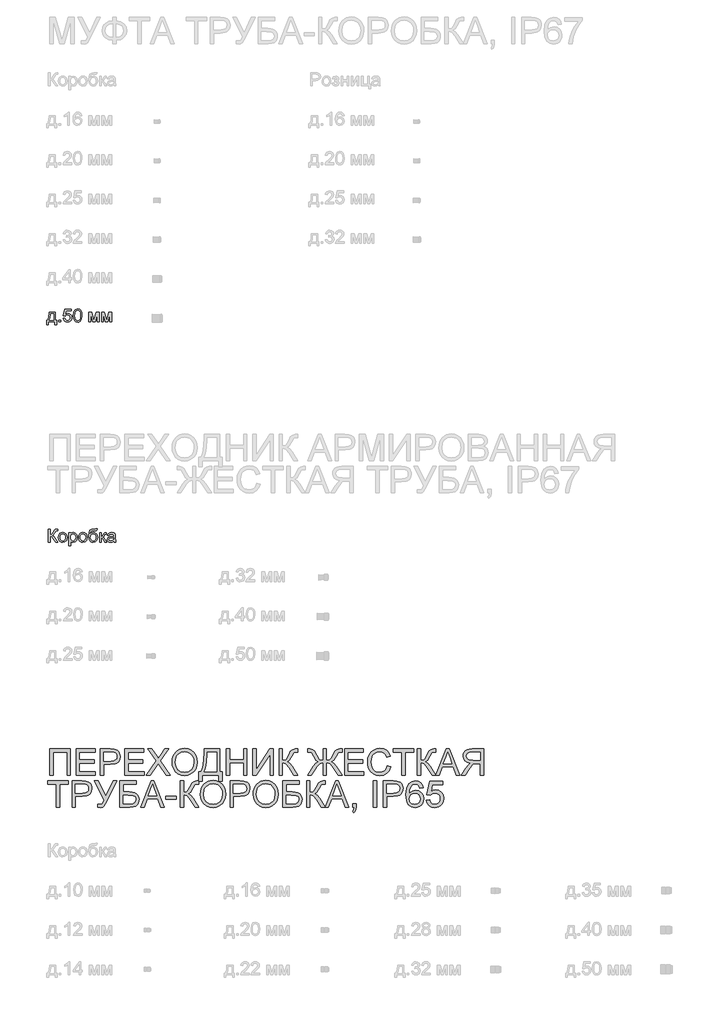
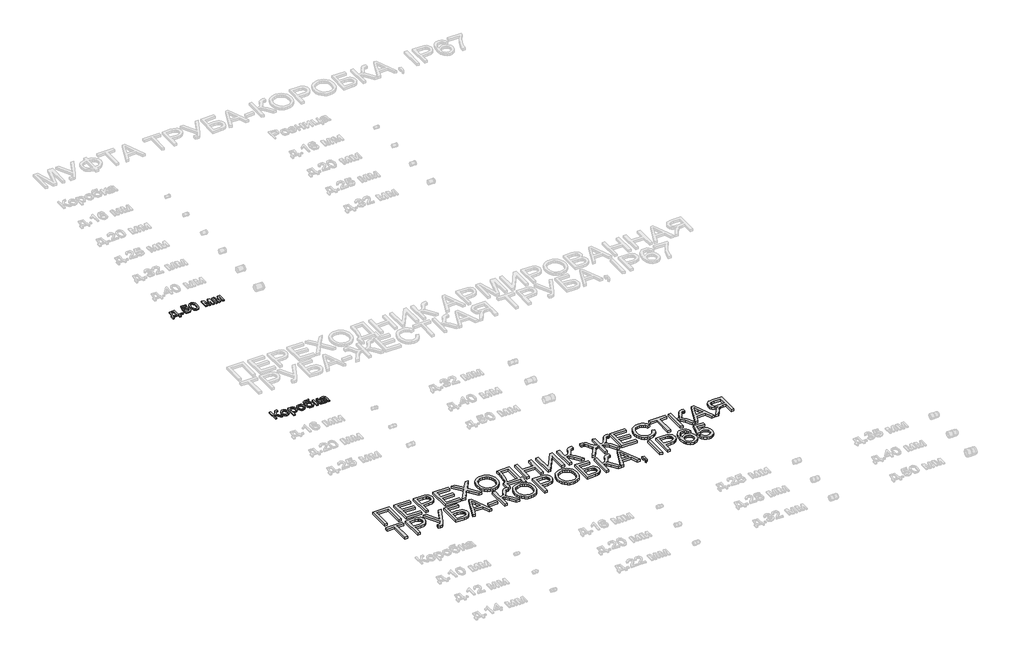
# One storey, part 58 of 98: 3 proxies.
"""IFC4 building model written with IfcOpenShell, lengths in millimetres."""

from ifc_helpers import new_model, si_unit, origin, origin_with_axes, place, context, project, spatial, polyline, outline, extrude, element, save

model = new_model("IFC4")

# Units and contexts
model_context = context("Model", 3, world=origin())
ifc_project = project(units=[si_unit("LENGTHUNIT", "METRE", prefix="MILLI")], contexts=[model_context])

# Site, building, storey
site = spatial("IfcSite", under=ifc_project)
building = spatial("IfcBuilding", under=site)
storey = spatial("IfcBuildingStorey", under=building, Name="Этаж 01", Elevation=0.0)

# Proxies
placement = place(None, origin())
element("IfcBuildingElementProxy", 1, Name="100", ObjectType="100", at=placement, inside=storey, context=model_context, shape_type="SweptSolid", body=[
    extrude(outline(polyline([(8356.3281893, -24085.7395637), (8403.4170847, -24085.7395637), (8403.4170847, -24146.9551277), (8412.8348638, -24146.9551277), (8412.8348638, -24179.9173545), (8400.277825, -24179.9173545), (8400.277825, -24159.5121665), (8348.4800401, -24159.5121665), (8348.4800401, -24179.9173545), (8335.9230013, -24179.9173545), (8335.9230013, -24146.9551277), (8343.7711505, -24146.9551277), (8353.4709725, -24123.0060098), (8356.3281893, -24085.7395637)]), holes=[polyline([(8367.3155982, -24098.2966025), (8364.3725423, -24126.905559), (8357.8978192, -24146.9551277), (8390.8600459, -24146.9551277), (8390.8600459, -24098.2966025), (8367.3155982, -24098.2966025)])]), origin_with_axes(), (0.0, 0.0, 1.0), 10.0),
    extrude(outline(polyline([(8430.1007921, -24159.5121665), (8430.1007921, -24146.9551277), (8442.6578308, -24146.9551277), (8442.6578308, -24159.5121665), (8430.1007921, -24159.5121665)])), origin_with_axes(), (0.0, 0.0, 1.0), 10.0),
    extrude(outline(polyline([(8463.0630188, -24132.8284591), (8475.6200576, -24131.2588292), (8481.9476279, -24144.1960127), (8495.0687524, -24148.5247575), (8504.0695986, -24147.019507), (8510.8141018, -24142.5037555), (8515.0263507, -24135.4986692), (8516.4304336, -24126.5254142), (8511.1697211, -24111.6139307), (8504.5631736, -24107.5120464), (8495.2649562, -24106.1447517), (8484.240759, -24108.3275182), (8477.1896875, -24113.9929009), (8464.6326487, -24112.4232711), (8475.6200576, -24060.6254862), (8524.2785828, -24060.6254862), (8524.2785828, -24073.1825249), (8485.7736007, -24073.1825249), (8480.4025236, -24100.847251), (8489.3727129, -24095.4025974), (8498.7720978, -24093.5877129), (8510.5044678, -24095.8379245), (8520.2441436, -24102.5885591), (8526.8016402, -24112.8769922), (8528.9874724, -24125.7405993), (8527.0193037, -24138.2976381), (8521.1147977, -24149.0397923), (8509.8085577, -24158.0712953), (8495.0197015, -24161.0817963), (8482.6864576, -24159.1473501), (8472.8609426, -24153.3440117), (8466.1256365, -24144.3462312), (8463.0630188, -24132.8284591)])), origin_with_axes(), (0.0, 0.0, 1.0), 10.0),
    extrude(outline(polyline([(8539.9748813, -24110.0933518), (8543.665964, -24081.1900897), (8554.6288474, -24064.5250353), (8572.9371081, -24059.0558563), (8587.6033369, -24062.2932179), (8597.7323545, -24071.6251578), (8603.6184665, -24086.4875904), (8605.8993348, -24110.0933518), (8602.2450404, -24138.8739865), (8591.3189451, -24155.5758291), (8583.0875855, -24159.7053045), (8572.9371081, -24161.0817963), (8559.88956, -24158.6905633), (8549.9812716, -24151.5168644), (8542.4764789, -24134.5268476), (8539.9748813, -24110.0933518)]), holes=[polyline([(8552.5319201, -24110.0688263), (8554.0034481, -24129.8210238), (8558.418032, -24141.2529568), (8564.990857, -24146.7068073), (8572.9371081, -24148.5247575), (8580.8833592, -24146.700676), (8587.4561841, -24141.2284313), (8591.8707681, -24129.7903669), (8593.3422961, -24110.0688263), (8591.919819, -24090.7611529), (8587.6523879, -24079.2403151), (8581.0918256, -24073.5197501), (8572.7899553, -24071.6128951), (8564.9295433, -24073.2928895), (8558.6142357, -24078.3328729), (8554.052499, -24090.5710806), (8552.5319201, -24110.0688263)])]), origin_with_axes(), (0.0, 0.0, 1.0), 10.0),
    extrude(outline(polyline([(8659.2667496, -24085.7395637), (8680.8736855, -24085.7395637), (8697.5264771, -24144.7968867), (8715.4791185, -24085.7395637), (8736.1786121, -24085.7395637), (8736.1786121, -24159.5121665), (8723.6215733, -24159.5121665), (8723.6215733, -24100.111487), (8705.5708301, -24159.5121665), (8689.0897167, -24159.5121665), (8671.8237884, -24097.2665329), (8671.8237884, -24159.5121665), (8659.2667496, -24159.5121665), (8659.2667496, -24085.7395637)])), origin_with_axes(), (0.0, 0.0, 1.0), 10.0),
    extrude(outline(polyline([(8755.0141702, -24085.7395637), (8776.6211061, -24085.7395637), (8793.2738977, -24144.7968867), (8811.2265391, -24085.7395637), (8831.9260327, -24085.7395637), (8831.9260327, -24159.5121665), (8819.3689939, -24159.5121665), (8819.3689939, -24100.111487), (8801.3182507, -24159.5121665), (8784.8371373, -24159.5121665), (8767.571209, -24097.2665329), (8767.571209, -24159.5121665), (8755.0141702, -24159.5121665), (8755.0141702, -24085.7395637)])), origin_with_axes(), (0.0, 0.0, 1.0), 10.0),
])
element("IfcBuildingElementProxy", 2, Name="100", ObjectType="100", at=placement, inside=storey, context=model_context, shape_type="SweptSolid", body=[
    extrude(outline(polyline([(8349.7389883, -25738.6795006), (8362.2960271, -25738.6795006), (8362.2960271, -25782.6291363), (8376.3368566, -25779.3059356), (8386.1347804, -25762.4937284), (8393.0632246, -25748.4528989), (8400.9113739, -25741.4999292), (8412.1317747, -25738.6795006), (8420.3723314, -25738.8266534), (8420.3723314, -25751.3836922), (8417.6009537, -25751.3101158), (8414.829576, -25751.2365394), (8405.0193895, -25754.2531717), (8397.5636477, -25767.1780925), (8388.6731662, -25782.9234419), (8380.0034138, -25788.1228407), (8389.6971044, -25793.8004862), (8399.2559049, -25805.6340237), (8420.3723314, -25839.1358107), (8405.8042044, -25839.1358107), (8387.9496649, -25810.8334226), (8375.3803634, -25796.0568291), (8362.2960271, -25792.0469154), (8362.2960271, -25839.1358107), (8349.7389883, -25839.1358107), (8349.7389883, -25738.6795006)])), origin_with_axes(), (0.0, 0.0, 1.0), 10.0),
    extrude(outline(polyline([(8426.6508508, -25802.2495094), (8429.3670462, -25784.4624149), (8437.5156324, -25771.9605584), (8447.5833363, -25765.8353232), (8459.637603, -25763.7935781), (8472.8292382, -25766.2798473), (8483.3659917, -25773.7386547), (8490.2729762, -25785.5813893), (8492.5753043, -25801.2194398), (8488.5040769, -25823.5621396), (8476.6460139, -25836.2050175), (8459.637603, -25840.7054406), (8446.2865523, -25838.2283685), (8435.7620615, -25830.7971522), (8428.9286535, -25818.7060973), (8426.6508508, -25802.2495094)]), holes=[polyline([(8439.2078896, -25802.2249839), (8440.6610235, -25813.5894719), (8445.0204251, -25821.6859414), (8451.5809873, -25826.5327867), (8459.637603, -25828.1484018), (8467.6574305, -25826.5235897), (8474.20573, -25821.6491532), (8478.5651317, -25813.4453847), (8480.0182656, -25801.8325764), (8478.5559346, -25790.7991823), (8474.1689418, -25782.8130773), (8467.6114453, -25777.966232), (8459.637603, -25776.3506169), (8451.5809873, -25777.9601006), (8445.0204251, -25782.7885518), (8440.6610235, -25790.8666273), (8439.2078896, -25802.2249839)])]), origin_with_axes(), (0.0, 0.0, 1.0), 10.0),
    extrude(outline(polyline([(8506.701973, -25867.389148), (8506.701973, -25765.363208), (8519.2590117, -25765.363208), (8519.2590117, -25777.6749921), (8527.9410268, -25767.2639316), (8539.6641997, -25763.7935781), (8555.5812274, -25768.6496205), (8565.9800251, -25782.3348307), (8569.4871668, -25801.6854236), (8565.526304, -25822.029298), (8554.0238603, -25835.8861864), (8538.1436208, -25840.7054406), (8527.2175256, -25837.4803418), (8519.2590117, -25829.3256242), (8519.2590117, -25867.389148), (8506.701973, -25867.389148)]), holes=[polyline([(8519.2590117, -25802.8381205), (8520.6171094, -25814.0953096), (8524.6914025, -25821.9679843), (8530.7032075, -25826.6032974), (8537.8738407, -25828.1484018), (8545.1609699, -25826.5481151), (8551.326059, -25821.7472551), (8555.5291108, -25813.5864062), (8556.930128, -25801.9061528), (8555.5628333, -25790.7102774), (8551.460949, -25782.7272381), (8545.4583411, -25777.9447722), (8538.3888755, -25776.3506169), (8531.2918186, -25778.0459398), (8525.0592845, -25783.1319083), (8520.7090799, -25791.4491071), (8519.2590117, -25802.8381205)])]), origin_with_axes(), (0.0, 0.0, 1.0), 10.0),
    extrude(outline(polyline([(8580.4745757, -25802.2495094), (8583.1907711, -25784.4624149), (8591.3393573, -25771.9605584), (8601.4070612, -25765.8353232), (8613.461328, -25763.7935781), (8626.6529632, -25766.2798473), (8637.1897166, -25773.7386547), (8644.0967011, -25785.5813893), (8646.3990293, -25801.2194398), (8642.3278018, -25823.5621396), (8630.4697389, -25836.2050175), (8613.461328, -25840.7054406), (8600.1102772, -25838.2283685), (8589.5857865, -25830.7971522), (8582.7523784, -25818.7060973), (8580.4745757, -25802.2495094)]), holes=[polyline([(8593.0316145, -25802.2249839), (8594.4847484, -25813.5894719), (8598.84415, -25821.6859414), (8605.4047123, -25826.5327867), (8613.461328, -25828.1484018), (8621.4811554, -25826.5235897), (8628.029455, -25821.6491532), (8632.3888566, -25813.4453847), (8633.8419905, -25801.8325764), (8632.3796596, -25790.7991823), (8627.9926668, -25782.8130773), (8621.4351702, -25777.966232), (8613.461328, -25776.3506169), (8605.4047123, -25777.9601006), (8598.84415, -25782.7885518), (8594.4847484, -25790.8666273), (8593.0316145, -25802.2249839)])]), origin_with_axes(), (0.0, 0.0, 1.0), 10.0),
    extrude(outline(polyline([(8712.3234828, -25737.1098707), (8723.3108917, -25737.1098707), (8720.0735302, -25746.9077945), (8713.6723834, -25750.4517244), (8698.294916, -25751.2365394), (8677.5831597, -25754.1305444), (8669.6369086, -25763.4011707), (8666.9513701, -25779.8087076), (8677.8284144, -25767.7912291), (8691.8447184, -25763.7935781), (8704.9106606, -25766.3350296), (8715.5117934, -25773.9593839), (8722.5383395, -25785.9186145), (8724.8805216, -25801.4646944), (8720.2329457, -25823.0716303), (8709.2087486, -25836.1069156), (8691.8447184, -25840.7054406), (8680.5108873, -25839.2247156), (8672.0158789, -25834.7825405), (8661.16336, -25819.6258023), (8657.3864382, -25787.4606531), (8659.7684741, -25763.3674481), (8666.9145819, -25748.6736281), (8679.0025711, -25741.1780325), (8696.2102514, -25738.6795006), (8710.1897672, -25738.3974577), (8712.3234828, -25737.1098707)]), holes=[polyline([(8712.3234828, -25801.072287), (8710.9623194, -25791.1915897), (8706.8788293, -25783.2790611), (8700.318267, -25778.082728), (8691.5258873, -25776.3506169), (8682.3594943, -25778.1808298), (8675.5598087, -25783.6714686), (8671.3475599, -25792.2216593), (8669.9434769, -25803.230528), (8671.4947127, -25813.9021716), (8676.1484199, -25821.7349924), (8683.0768642, -25826.5450495), (8691.4523109, -25828.1484018), (8699.8706773, -25826.2936634), (8706.5354727, -25820.7294482), (8710.8764803, -25812.1056811), (8712.3234828, -25801.072287)])]), origin_with_axes(), (0.0, 0.0, 1.0), 10.0),
    extrude(outline(polyline([(8740.57682, -25765.363208), (8753.1338588, -25765.363208), (8753.1338588, -25796.7558049), (8761.5460937, -25794.499462), (8768.4377498, -25781.353812), (8774.1644462, -25770.0107838), (8779.2166922, -25766.3197012), (8788.4014794, -25765.363208), (8790.8049751, -25765.363208), (8790.8049751, -25777.9938231), (8787.4204607, -25777.9202467), (8781.2890942, -25779.2446219), (8776.9726121, -25787.5097041), (8771.9081033, -25796.4492366), (8764.8079808, -25800.8270323), (8772.7297064, -25805.7137315), (8780.5042792, -25816.008296), (8793.9442348, -25839.1358107), (8779.6704134, -25839.1358107), (8766.5002379, -25816.4988053), (8759.878362, -25806.9216107), (8753.1338588, -25804.6039541), (8753.1338588, -25839.1358107), (8740.57682, -25839.1358107), (8740.57682, -25765.363208)])), origin_with_axes(), (0.0, 0.0, 1.0), 10.0),
    extrude(outline(polyline([(8848.8812794, -25829.7180317), (8836.7043854, -25838.2283685), (8823.2521671, -25840.7054406), (8812.7583332, -25839.2155185), (8805.0174828, -25834.7457523), (8800.244214, -25827.9583295), (8798.6531243, -25819.5154377), (8801.05662, -25809.5826238), (8807.3719276, -25802.3721367), (8816.1643073, -25798.2518583), (8827.0290889, -25796.3633974), (8848.807703, -25792.0469154), (8848.8812794, -25789.2510122), (8845.4231886, -25779.9803859), (8831.5417747, -25776.3506169), (8818.8375831, -25778.7663753), (8812.7797929, -25787.3380258), (8800.2227542, -25785.768396), (8805.655145, -25773.5056628), (8816.593503, -25766.3197012), (8833.1604555, -25763.7935781), (8848.3785073, -25766.0253956), (8856.9746833, -25771.6294646), (8860.8251815, -25780.1520642), (8861.4383182, -25791.1394731), (8861.4383182, -25806.7621952), (8862.0759803, -25828.5775975), (8864.5775779, -25839.1358107), (8852.0205391, -25839.1358107), (8848.8812794, -25829.7180317)]), holes=[polyline([(8848.8812794, -25804.6039541), (8828.6232442, -25808.4544523), (8817.8197763, -25810.490066), (8812.9269457, -25813.801004), (8811.2101631, -25818.6325209), (8814.9502967, -25825.4260751), (8825.9254429, -25828.1484018), (8838.6296345, -25825.1440322), (8846.8211402, -25817.8722314), (8848.807703, -25808.1601467), (8848.8812794, -25804.6039541)])]), origin_with_axes(), (0.0, 0.0, 1.0), 10.0),
])
element("IfcBuildingElementProxy", 3, Name="200", ObjectType="200", at=placement, inside=storey, context=model_context, shape_type="SweptSolid", body=[
    extrude(outline(polyline([(8360.7263973, -27414.6499105), (8517.6893819, -27414.6499105), (8517.6893819, -27615.5625308), (8492.5753043, -27615.5625308), (8492.5753043, -27439.763988), (8385.8404748, -27439.763988), (8385.8404748, -27615.5625308), (8360.7263973, -27615.5625308), (8360.7263973, -27414.6499105)])), origin_with_axes(), (0.0, 0.0, 1.0), 20.0),
    extrude(outline(polyline([(8561.6390176, -27615.5625308), (8561.6390176, -27414.6499105), (8706.0449634, -27414.6499105), (8706.0449634, -27439.763988), (8586.7530951, -27439.763988), (8586.7530951, -27499.4099222), (8699.766444, -27499.4099222), (8699.766444, -27524.5239997), (8586.7530951, -27524.5239997), (8586.7530951, -27590.4484532), (8709.1842231, -27590.4484532), (8709.1842231, -27615.5625308), (8561.6390176, -27615.5625308)])), origin_with_axes(), (0.0, 0.0, 1.0), 20.0),
    extrude(outline(polyline([(8746.8553394, -27615.5625308), (8746.8553394, -27414.6499105), (8821.3146552, -27414.6499105), (8851.333826, -27416.5628968), (8875.736665, -27425.9561505), (8884.6087525, -27434.2825463), (8891.5555908, -27445.3803198), (8896.0437512, -27458.4707875), (8897.5398046, -27472.7752657), (8893.499234, -27496.4546035), (8881.3775223, -27516.1853411), (8871.6700362, -27523.9537826), (8858.70986, -27529.5026694), (8823.0314379, -27533.9417788), (8771.9694169, -27533.9417788), (8771.9694169, -27615.5625308), (8746.8553394, -27615.5625308)]), holes=[polyline([(8771.9694169, -27508.8277012), (8824.5029659, -27508.8277012), (8846.7720893, -27506.5223074), (8861.4873691, -27499.6061259), (8869.6911376, -27488.5083524), (8872.4257271, -27473.6581825), (8870.8131777, -27462.376468), (8865.9755294, -27452.860587), (8858.5136563, -27445.6991509), (8849.0284322, -27441.4807707), (8823.9143547, -27439.763988), (8771.9694169, -27439.763988), (8771.9694169, -27508.8277012)])]), origin_with_axes(), (0.0, 0.0, 1.0), 20.0),
    extrude(outline(polyline([(8932.0716612, -27615.5625308), (8932.0716612, -27414.6499105), (9076.4776071, -27414.6499105), (9076.4776071, -27439.763988), (8957.1857388, -27439.763988), (8957.1857388, -27499.4099222), (9070.1990877, -27499.4099222), (9070.1990877, -27524.5239997), (8957.1857388, -27524.5239997), (8957.1857388, -27590.4484532), (9079.6168668, -27590.4484532), (9079.6168668, -27615.5625308), (8932.0716612, -27615.5625308)])), origin_with_axes(), (0.0, 0.0, 1.0), 20.0),
    extrude(outline(polyline([(9095.3131652, -27615.5625308), (9172.764588, -27506.080849), (9107.870204, -27414.6499105), (9137.9874767, -27414.6499105), (9174.5304215, -27466.1043389), (9186.8422056, -27486.1661703), (9201.2631798, -27465.7609823), (9237.4137172, -27414.6499105), (9267.9724483, -27414.6499105), (9203.0780644, -27506.3751546), (9280.5294871, -27615.5625308), (9250.4122144, -27615.5625308), (9198.8106332, -27542.7709467), (9188.068479, -27527.6632594), (9176.2472042, -27544.2424746), (9125.8718963, -27615.5625308), (9095.3131652, -27615.5625308)])), origin_with_axes(), (0.0, 0.0, 1.0), 20.0),
    extrude(outline(polyline([(9293.0865258, -27517.754971), (9294.7603889, -27494.1890635), (9299.7819782, -27473.3270887), (9308.1512935, -27455.1690466), (9319.8683351, -27439.7149371), (9334.2310613, -27427.3755618), (9350.5374308, -27418.5617224), (9368.7874434, -27413.2734187), (9388.9810993, -27411.5106508), (9415.3337128, -27414.8215887), (9438.9639997, -27424.7544026), (9458.5843727, -27440.6101166), (9472.9072451, -27461.6897549), (9481.6628366, -27486.9755107), (9484.5813671, -27515.4495771), (9481.5095524, -27544.3037883), (9472.2941084, -27569.9451634), (9457.4439386, -27591.0615899), (9437.4679462, -27606.3409554), (9414.0399945, -27615.6115817), (9388.8339465, -27618.7017905), (9362.0766627, -27615.2866193), (9338.3114858, -27605.0411057), (9318.7401636, -27588.8910861), (9304.5644441, -27567.7623969), (9295.9560054, -27543.4515283), (9293.0865258, -27517.754971)]), holes=[polyline([(9318.2006034, -27518.0002256), (9323.2221926, -27549.4296108), (9338.2869603, -27573.3787287), (9360.9300971, -27588.5354669), (9388.6867937, -27593.5877129), (9416.8481604, -27588.4864159), (9439.5280854, -27573.1825249), (9448.2514872, -27561.9100075), (9454.4824885, -27548.497643), (9459.4672895, -27515.2533734), (9457.333574, -27493.0210382), (9450.9324272, -27473.8053353), (9440.4293963, -27458.0906427), (9425.990028, -27446.3613385), (9408.5708155, -27439.0588808), (9389.1282521, -27436.6247283), (9362.1134509, -27441.3152238), (9339.1453516, -27455.3867101), (9329.9820243, -27466.3357979), (9323.4367904, -27480.4210798), (9318.2006034, -27518.0002256)])]), origin_with_axes(), (0.0, 0.0, 1.0), 20.0),
    extrude(outline(polyline([(9537.9487818, -27414.6499105), (9657.2406501, -27414.6499105), (9657.2406501, -27590.4484532), (9676.0762083, -27590.4484532), (9676.0762083, -27662.6514262), (9650.9621308, -27662.6514262), (9650.9621308, -27615.5625308), (9522.2524834, -27615.5625308), (9522.2524834, -27662.6514262), (9497.1384058, -27662.6514262), (9497.1384058, -27590.4484532), (9512.8347043, -27590.4484532), (9523.8221132, -27567.6673607), (9531.6702624, -27535.6217732), (9536.379152, -27494.3116908), (9537.9487818, -27443.7371136), (9537.9487818, -27414.6499105)]), holes=[polyline([(9632.1265726, -27439.763988), (9563.0628594, -27439.763988), (9563.0628594, -27449.8684801), (9557.9615624, -27518.6869387), (9550.4077187, -27558.4549824), (9537.9487818, -27590.4484532), (9632.1265726, -27590.4484532), (9632.1265726, -27439.763988)])]), origin_with_axes(), (0.0, 0.0, 1.0), 20.0),
    extrude(outline(polyline([(9707.4688052, -27615.5625308), (9707.4688052, -27414.6499105), (9732.5828827, -27414.6499105), (9732.5828827, -27496.2706625), (9839.3177123, -27496.2706625), (9839.3177123, -27414.6499105), (9864.4317898, -27414.6499105), (9864.4317898, -27615.5625308), (9839.3177123, -27615.5625308), (9839.3177123, -27521.38474), (9732.5828827, -27521.38474), (9732.5828827, -27615.5625308), (9707.4688052, -27615.5625308)])), origin_with_axes(), (0.0, 0.0, 1.0), 20.0),
    extrude(outline(polyline([(9908.3814255, -27414.6499105), (9933.495503, -27414.6499105), (9933.495503, -27573.7711361), (10038.6607027, -27414.6499105), (10065.3444101, -27414.6499105), (10065.3444101, -27615.5625308), (10040.2303326, -27615.5625308), (10040.2303326, -27456.8827635), (9935.3103876, -27615.5625308), (9908.3814255, -27615.5625308), (9908.3814255, -27414.6499105)])), origin_with_axes(), (0.0, 0.0, 1.0), 20.0),
    extrude(outline(polyline([(10109.2940458, -27414.6499105), (10134.4081233, -27414.6499105), (10134.4081233, -27502.5491818), (10151.4104029, -27500.8875815), (10162.4897823, -27495.9027805), (10171.4477089, -27484.1734762), (10182.0856299, -27462.2783661), (10195.9425184, -27434.1967071), (10211.6388169, -27420.2907677), (10234.0796186, -27414.6499105), (10250.560732, -27414.9442161), (10250.560732, -27440.0582936), (10245.0179766, -27439.9111408), (10239.4752212, -27439.763988), (10227.9727775, -27441.2723042), (10219.8548481, -27445.7972527), (10204.9433646, -27471.6470943), (10187.1624015, -27503.137793), (10169.8228967, -27513.5365908), (10189.2102779, -27524.8918817), (10208.3278789, -27548.5589567), (10250.560732, -27615.5625308), (10221.4244779, -27615.5625308), (10185.7153989, -27558.9577544), (10160.5767959, -27529.4045675), (10148.970119, -27523.3896969), (10134.4081233, -27521.38474), (10134.4081233, -27615.5625308), (10109.2940458, -27615.5625308), (10109.2940458, -27414.6499105)])), origin_with_axes(), (0.0, 0.0, 1.0), 20.0),
    extrude(outline(polyline([(10470.3089104, -27414.6499105), (10470.3089104, -27502.5491818), (10488.6784847, -27500.8569247), (10500.2299793, -27495.7801531), (10509.2676137, -27484.0324548), (10520.0956071, -27462.327417), (10534.3203776, -27434.2457581), (10550.2374052, -27420.2907677), (10572.8744107, -27414.6499105), (10589.6007787, -27414.9442161), (10589.6007787, -27439.763988), (10584.1070742, -27439.6168352), (10578.466217, -27439.4696824), (10566.7307813, -27441.0025241), (10558.5024874, -27445.601049), (10543.2966983, -27471.2546868), (10527.2325178, -27499.9740079), (10507.5385683, -27512.653674), (10527.3919333, -27524.3768469), (10546.6321617, -27548.5589567), (10589.6007787, -27615.5625308), (10560.4154738, -27615.5625308), (10523.9706308, -27558.7124998), (10498.8810787, -27529.8215004), (10486.6490024, -27523.4939301), (10470.3089104, -27521.38474), (10470.3089104, -27615.5625308), (10445.1948329, -27615.5625308), (10445.1948329, -27521.38474), (10431.4421776, -27523.0218149), (10419.4185677, -27527.9330395), (10407.3213815, -27538.2521295), (10393.347997, -27556.1128003), (10391.5331125, -27558.7124998), (10355.0882695, -27615.5625308), (10325.9029646, -27615.5625308), (10368.8225307, -27548.5589567), (10388.2834882, -27524.3032705), (10408.0142259, -27512.653674), (10389.3748715, -27501.2983831), (10372.207045, -27471.2546868), (10356.5597975, -27445.0614887), (10348.4786563, -27441.0883632), (10337.1846791, -27439.763988), (10325.9029646, -27440.0582936), (10325.9029646, -27414.9442161), (10341.7464158, -27414.6499105), (10365.2908635, -27420.1681404), (10380.9135856, -27434.0005034), (10395.4081362, -27462.376468), (10406.2422609, -27484.320629), (10415.2001875, -27495.9027805), (10426.7087626, -27500.7649542), (10445.1948329, -27502.5491818), (10445.1948329, -27414.6499105), (10470.3089104, -27414.6499105)])), origin_with_axes(), (0.0, 0.0, 1.0), 20.0),
    extrude(outline(polyline([(10608.4363369, -27615.5625308), (10608.4363369, -27414.6499105), (10752.8422827, -27414.6499105), (10752.8422827, -27439.763988), (10633.5504144, -27439.763988), (10633.5504144, -27499.4099222), (10746.5637633, -27499.4099222), (10746.5637633, -27524.5239997), (10633.5504144, -27524.5239997), (10633.5504144, -27590.4484532), (10755.9815424, -27590.4484532), (10755.9815424, -27615.5625308), (10608.4363369, -27615.5625308)])), origin_with_axes(), (0.0, 0.0, 1.0), 20.0),
    extrude(outline(polyline([(10934.9193449, -27544.1443728), (10960.0334224, -27550.6190959), (10948.4451395, -27579.8841086), (10930.2595062, -27601.2641839), (10906.371702, -27614.3423888), (10877.6769064, -27618.7017905), (10848.5467837, -27615.4031152), (10825.4131376, -27605.5070896), (10807.6812255, -27589.35707), (10794.7563047, -27567.296413), (10786.8652359, -27541.3607323), (10784.2348796, -27513.5856417), (10787.2085924, -27484.2899722), (10796.1297308, -27458.9919536), (10810.5323109, -27438.4947951), (10829.9503489, -27423.6017057), (10852.9797618, -27414.5334145), (10878.2164667, -27411.5106508), (10905.752434, -27415.4224627), (10928.5181981, -27427.1578983), (10945.8025205, -27445.9934565), (10956.8941627, -27471.2056359), (10931.7800852, -27477.1898496), (10923.0735446, -27458.8754577), (10911.1786934, -27446.3122875), (10895.9483788, -27439.0466181), (10877.235448, -27436.6247283), (10855.6653004, -27439.3102669), (10837.9456509, -27447.3668826), (10824.499564, -27459.9484468), (10815.7501039, -27476.208831), (10810.9492438, -27494.590668), (10809.3489572, -27513.5365908), (10811.2435494, -27536.7376819), (10816.9273263, -27556.7995134), (10826.6148855, -27572.9556644), (10840.5208249, -27584.439714), (10857.1920106, -27591.3007132), (10875.1753088, -27593.5877129), (10896.1384512, -27590.4729787), (10913.6067146, -27581.128776), (10926.7952841, -27565.6532068), (10934.9193449, -27544.1443728)])), origin_with_axes(), (0.0, 0.0, 1.0), 20.0),
    extrude(outline(polyline([(11044.7934341, -27615.5625308), (11044.7934341, -27439.763988), (10978.8689805, -27439.763988), (10978.8689805, -27414.6499105), (11135.8319651, -27414.6499105), (11135.8319651, -27439.763988), (11069.9075116, -27439.763988), (11069.9075116, -27615.5625308), (11044.7934341, -27615.5625308)])), origin_with_axes(), (0.0, 0.0, 1.0), 20.0),
    extrude(outline(polyline([(11164.0853024, -27414.6499105), (11189.1993799, -27414.6499105), (11189.1993799, -27502.5491818), (11206.2016595, -27500.8875815), (11217.2810389, -27495.9027805), (11226.2389655, -27484.1734762), (11236.8768865, -27462.2783661), (11250.733775, -27434.1967071), (11266.4300734, -27420.2907677), (11288.8708751, -27414.6499105), (11305.3519885, -27414.9442161), (11305.3519885, -27440.0582936), (11299.8092331, -27439.9111408), (11294.2664777, -27439.763988), (11282.764034, -27441.2723042), (11274.6461047, -27445.7972527), (11259.7346211, -27471.6470943), (11241.953658, -27503.137793), (11224.6141533, -27513.5365908), (11244.0015345, -27524.8918817), (11263.1191355, -27548.5589567), (11305.3519885, -27615.5625308), (11276.2157345, -27615.5625308), (11240.5066555, -27558.9577544), (11215.3680525, -27529.4045675), (11203.7613756, -27523.3896969), (11189.1993799, -27521.38474), (11189.1993799, -27615.5625308), (11164.0853024, -27615.5625308), (11164.0853024, -27414.6499105)])), origin_with_axes(), (0.0, 0.0, 1.0), 20.0),
    extrude(outline(polyline([(11303.9295115, -27615.5625308), (11384.1277864, -27414.6499105), (11405.5139931, -27414.6499105), (11485.712268, -27615.5625308), (11459.1757134, -27615.5625308), (11436.170826, -27552.7773369), (11353.4219026, -27552.7773369), (11330.4660661, -27615.5625308), (11303.9295115, -27615.5625308)]), holes=[polyline([(11362.6434779, -27527.6632594), (11426.9983016, -27527.6632594), (11408.8985074, -27478.2689702), (11394.8208898, -27439.763988), (11382.3129019, -27473.9524881), (11362.6434779, -27527.6632594)])]), origin_with_axes(), (0.0, 0.0, 1.0), 20.0),
    extrude(outline(polyline([(11669.5061128, -27615.5625308), (11644.3920353, -27615.5625308), (11644.3920353, -27527.6632594), (11614.0785589, -27527.6632594), (11599.5104319, -27528.5461762), (11587.5665298, -27533.3286421), (11574.2982525, -27546.3516647), (11555.4136434, -27573.9182889), (11529.2694963, -27615.5625308), (11500.0841913, -27615.5625308), (11533.5859783, -27561.1159955), (11553.9421154, -27535.266154), (11568.2159368, -27524.5239997), (11543.4758726, -27517.8653356), (11526.154762, -27505.8355943), (11515.9460367, -27489.4280574), (11512.5431282, -27469.636006), (11514.597136, -27453.7251097), (11520.7591594, -27439.2489532), (11530.3608795, -27427.5748312), (11542.7339773, -27420.0700385), (11559.6626804, -27416.0049425), (11582.9312166, -27414.6499105), (11669.5061128, -27414.6499105), (11669.5061128, -27615.5625308)]), holes=[polyline([(11644.3920353, -27502.5491818), (11644.3920353, -27439.763988), (11581.8520961, -27439.763988), (11561.980337, -27441.9344918), (11548.2767327, -27448.4460031), (11540.3120875, -27458.3175033), (11537.6572057, -27470.5679737), (11543.2244866, -27487.6131728), (11550.0793545, -27494.3699388), (11559.5093963, -27498.9929892), (11588.1796664, -27502.5491818), (11644.3920353, -27502.5491818)])]), origin_with_axes(), (0.0, 0.0, 1.0), 20.0),
    extrude(outline(polyline([(8410.9545523, -27859.5121665), (8410.9545523, -27683.7136237), (8345.0300988, -27683.7136237), (8345.0300988, -27658.5995462), (8501.9930834, -27658.5995462), (8501.9930834, -27683.7136237), (8436.0686299, -27683.7136237), (8436.0686299, -27859.5121665), (8410.9545523, -27859.5121665)])), origin_with_axes(), (0.0, 0.0, 1.0), 20.0),
    extrude(outline(polyline([(8530.2464206, -27859.5121665), (8530.2464206, -27658.5995462), (8604.7057365, -27658.5995462), (8634.7249073, -27660.5125325), (8659.1277463, -27669.9057861), (8667.9998337, -27678.232182), (8674.9466721, -27689.3299555), (8679.4348324, -27702.4204232), (8680.9308859, -27716.7249014), (8676.8903153, -27740.4042392), (8664.7686035, -27760.1349768), (8655.0611174, -27767.9034183), (8642.1009413, -27773.4523051), (8606.4225191, -27777.8914145), (8555.3604982, -27777.8914145), (8555.3604982, -27859.5121665), (8530.2464206, -27859.5121665)]), holes=[polyline([(8555.3604982, -27752.7773369), (8607.8940471, -27752.7773369), (8630.1631705, -27750.4719431), (8644.8784503, -27743.5557616), (8653.0822188, -27732.4579881), (8655.8168083, -27717.6078182), (8654.2042589, -27706.3261037), (8649.3666107, -27696.8102227), (8641.9047375, -27689.6487866), (8632.4195134, -27685.4304063), (8607.3054359, -27683.7136237), (8555.3604982, -27683.7136237), (8555.3604982, -27752.7773369)])]), origin_with_axes(), (0.0, 0.0, 1.0), 20.0),
    extrude(outline(polyline([(8701.3360739, -27658.5995462), (8729.1479527, -27658.5995462), (8789.2353452, -27777.5971089), (8843.2894731, -27658.5995462), (8870.8560972, -27658.5995462), (8794.5818969, -27815.1210724), (8773.8333524, -27853.5770036), (8763.9863776, -27860.3828205), (8750.6322612, -27862.6514262), (8728.0197813, -27859.5121665), (8728.0197813, -27837.5373486), (8747.7873071, -27837.5373486), (8762.453536, -27831.9455423), (8776.0406444, -27806.4881082), (8701.3360739, -27658.5995462)])), origin_with_axes(), (0.0, 0.0, 1.0), 20.0),
    extrude(outline(polyline([(8894.4005449, -27658.5995462), (9019.9709326, -27658.5995462), (9019.9709326, -27683.7136237), (8919.5146225, -27683.7136237), (8919.5146225, -27743.3595578), (8966.5544669, -27743.3595578), (8989.9394991, -27744.6348821), (9008.002505, -27748.4608548), (9021.8716563, -27755.8307575), (9032.6751242, -27767.7378714), (9039.6280939, -27783.0662879), (9041.9457505, -27800.7000982), (9040.2964129, -27815.5073485), (9035.3484, -27829.3213174), (9027.1262374, -27841.4185037), (9015.6544505, -27851.075406), (8997.9593266, -27857.4029764), (8971.0671527, -27859.5121665), (8894.4005449, -27859.5121665), (8894.4005449, -27658.5995462)]), holes=[polyline([(8919.5146225, -27834.3980889), (8973.3234956, -27834.3980889), (8992.3429948, -27832.325687), (9005.9423659, -27826.1084813), (9014.1093462, -27815.7464718), (9016.8316729, -27801.2396584), (9015.2743058, -27790.4361905), (9010.6022045, -27781.5702344), (9003.1525941, -27774.9974094), (8993.2626998, -27771.0733348), (8955.4199052, -27768.4736354), (8919.5146225, -27768.4736354), (8919.5146225, -27834.3980889)])]), origin_with_axes(), (0.0, 0.0, 1.0), 20.0),
    extrude(outline(polyline([(9053.0803122, -27859.5121665), (9133.2785871, -27658.5995462), (9154.6647938, -27658.5995462), (9234.8630687, -27859.5121665), (9208.3265142, -27859.5121665), (9185.3216267, -27796.7269726), (9102.5727033, -27796.7269726), (9079.6168668, -27859.5121665), (9053.0803122, -27859.5121665)]), holes=[polyline([(9111.7942786, -27771.6128951), (9176.1491023, -27771.6128951), (9158.0493081, -27722.2186059), (9143.9716905, -27683.7136237), (9131.4637026, -27717.9021238), (9111.7942786, -27771.6128951)])]), origin_with_axes(), (0.0, 0.0, 1.0), 20.0),
    extrude(outline(polyline([(9245.9976305, -27799.8662323), (9245.9976305, -27774.7521548), (9324.4791228, -27774.7521548), (9324.4791228, -27799.8662323), (9245.9976305, -27799.8662323)])), origin_with_axes(), (0.0, 0.0, 1.0), 20.0),
    extrude(outline(polyline([(9355.8717197, -27658.5995462), (9380.9857972, -27658.5995462), (9380.9857972, -27746.4988175), (9397.9880768, -27744.8372172), (9409.0674562, -27739.8524162), (9418.0253828, -27728.1231119), (9428.6633038, -27706.2280018), (9442.5201923, -27678.1463428), (9458.2164907, -27664.2404034), (9480.6572925, -27658.5995462), (9497.1384058, -27658.8938518), (9497.1384058, -27684.0079293), (9491.5956504, -27683.8607765), (9486.052895, -27683.7136237), (9474.5504513, -27685.2219399), (9466.432522, -27689.7468884), (9451.5210384, -27715.5967299), (9433.7400753, -27747.0874287), (9416.4005706, -27757.4862265), (9435.7879518, -27768.8415174), (9454.9055528, -27792.5085924), (9497.1384058, -27859.5121665), (9468.0021518, -27859.5121665), (9432.2930728, -27802.9073901), (9407.1544698, -27773.3542032), (9395.5477929, -27767.3393326), (9380.9857972, -27765.3343757), (9380.9857972, -27859.5121665), (9355.8717197, -27859.5121665), (9355.8717197, -27658.5995462)])), origin_with_axes(), (0.0, 0.0, 1.0), 20.0),
    extrude(outline(polyline([(9509.6954446, -27761.7046067), (9511.3693077, -27738.1386992), (9516.3908969, -27717.2767244), (9524.7602123, -27699.1186822), (9536.4772539, -27683.6645728), (9550.8399801, -27671.3251975), (9567.1463495, -27662.511358), (9585.3963622, -27657.2230544), (9605.590018, -27655.4602865), (9631.9426316, -27658.7712244), (9655.5729184, -27668.7040383), (9675.1932915, -27684.5597523), (9689.5161638, -27705.6393906), (9698.2717553, -27730.9251464), (9701.1902858, -27759.3992128), (9698.1184712, -27788.253424), (9688.9030272, -27813.8947991), (9674.0528573, -27835.0112256), (9654.076865, -27850.2905911), (9630.6489133, -27859.5612174), (9605.4428652, -27862.6514262), (9578.6855814, -27859.236255), (9554.9204045, -27848.9907414), (9535.3490824, -27832.8407218), (9521.1733629, -27811.7120326), (9512.5649242, -27787.401164), (9509.6954446, -27761.7046067)]), holes=[polyline([(9534.8095221, -27761.9498613), (9539.8311114, -27793.3792465), (9554.8958791, -27817.3283643), (9577.5390159, -27832.4851025), (9605.2957124, -27837.5373486), (9633.4570791, -27832.4360516), (9656.1370041, -27817.1321606), (9664.860406, -27805.8596431), (9671.0914073, -27792.4472787), (9676.0762083, -27759.2030091), (9673.9424927, -27736.9706739), (9667.541346, -27717.754971), (9657.038315, -27702.0402784), (9642.5989467, -27690.3109741), (9625.1797343, -27683.0085165), (9605.7371708, -27680.574364), (9578.7223696, -27685.2648594), (9555.7542704, -27699.3363458), (9546.590943, -27710.2854336), (9540.0457092, -27724.3707155), (9534.8095221, -27761.9498613)])]), origin_with_axes(), (0.0, 0.0, 1.0), 20.0),
    extrude(outline(polyline([(9735.7221424, -27859.5121665), (9735.7221424, -27658.5995462), (9810.1814583, -27658.5995462), (9840.2006291, -27660.5125325), (9864.6034681, -27669.9057861), (9873.4755555, -27678.232182), (9880.4223939, -27689.3299555), (9884.9105542, -27702.4204232), (9886.4066077, -27716.7249014), (9882.3660371, -27740.4042392), (9870.2443253, -27760.1349768), (9860.5368392, -27767.9034183), (9847.5766631, -27773.4523051), (9811.8982409, -27777.8914145), (9760.83622, -27777.8914145), (9760.83622, -27859.5121665), (9735.7221424, -27859.5121665)]), holes=[polyline([(9760.83622, -27752.7773369), (9813.3697689, -27752.7773369), (9835.6388923, -27750.4719431), (9850.3541721, -27743.5557616), (9858.5579406, -27732.4579881), (9861.2925301, -27717.6078182), (9859.6799807, -27706.3261037), (9854.8423325, -27696.8102227), (9847.3804593, -27689.6487866), (9837.8952352, -27685.4304063), (9812.7811577, -27683.7136237), (9760.83622, -27683.7136237), (9760.83622, -27752.7773369)])]), origin_with_axes(), (0.0, 0.0, 1.0), 20.0),
    extrude(outline(polyline([(9911.5206852, -27761.7046067), (9913.1945483, -27738.1386992), (9918.2161375, -27717.2767244), (9926.5854529, -27699.1186822), (9938.3024945, -27683.6645728), (9952.6652207, -27671.3251975), (9968.9715901, -27662.511358), (9987.2216028, -27657.2230544), (10007.4152586, -27655.4602865), (10033.7678722, -27658.7712244), (10057.398159, -27668.7040383), (10077.0185321, -27684.5597523), (10091.3414044, -27705.6393906), (10100.0969959, -27730.9251464), (10103.0155264, -27759.3992128), (10099.9437118, -27788.253424), (10090.7282678, -27813.8947991), (10075.8780979, -27835.0112256), (10055.9021056, -27850.2905911), (10032.4741538, -27859.5612174), (10007.2681058, -27862.6514262), (9980.510822, -27859.236255), (9956.7456451, -27848.9907414), (9937.174323, -27832.8407218), (9922.9986035, -27811.7120326), (9914.3901648, -27787.401164), (9911.5206852, -27761.7046067)]), holes=[polyline([(9936.6347627, -27761.9498613), (9941.656352, -27793.3792465), (9956.7211197, -27817.3283643), (9979.3642565, -27832.4851025), (10007.120953, -27837.5373486), (10035.2823197, -27832.4360516), (10057.9622447, -27817.1321606), (10066.6856466, -27805.8596431), (10072.9166479, -27792.4472787), (10077.9014489, -27759.2030091), (10075.7677333, -27736.9706739), (10069.3665866, -27717.754971), (10058.8635556, -27702.0402784), (10044.4241873, -27690.3109741), (10027.0049749, -27683.0085165), (10007.5624114, -27680.574364), (9980.5476102, -27685.2648594), (9957.579511, -27699.3363458), (9948.4161836, -27710.2854336), (9941.8709498, -27724.3707155), (9936.6347627, -27761.9498613)])]), origin_with_axes(), (0.0, 0.0, 1.0), 20.0),
    extrude(outline(polyline([(10137.547383, -27658.5995462), (10263.1177707, -27658.5995462), (10263.1177707, -27683.7136237), (10162.6614606, -27683.7136237), (10162.6614606, -27743.3595578), (10209.701305, -27743.3595578), (10233.0863372, -27744.6348821), (10251.1493431, -27748.4608548), (10265.0184944, -27755.8307575), (10275.8219623, -27767.7378714), (10282.774932, -27783.0662879), (10285.0925886, -27800.7000982), (10283.443251, -27815.5073485), (10278.4952381, -27829.3213174), (10270.2730755, -27841.4185037), (10258.8012886, -27851.075406), (10241.1061647, -27857.4029764), (10214.2139908, -27859.5121665), (10137.547383, -27859.5121665), (10137.547383, -27658.5995462)]), holes=[polyline([(10162.6614606, -27834.3980889), (10216.4703337, -27834.3980889), (10235.4898329, -27832.325687), (10249.089204, -27826.1084813), (10257.2561843, -27815.7464718), (10259.978511, -27801.2396584), (10258.4211439, -27790.4361905), (10253.7490426, -27781.5702344), (10246.2994322, -27774.9974094), (10236.4095379, -27771.0733348), (10198.5667433, -27768.4736354), (10162.6614606, -27768.4736354), (10162.6614606, -27834.3980889)])]), origin_with_axes(), (0.0, 0.0, 1.0), 20.0),
    extrude(outline(polyline([(10319.6244452, -27658.5995462), (10344.7385227, -27658.5995462), (10344.7385227, -27746.4988175), (10361.7408023, -27744.8372172), (10372.8201817, -27739.8524162), (10381.7781083, -27728.1231119), (10392.4160293, -27706.2280018), (10406.2729178, -27678.1463428), (10421.9692162, -27664.2404034), (10444.4100179, -27658.5995462), (10460.8911313, -27658.8938518), (10460.8911313, -27684.0079293), (10455.3483759, -27683.8607765), (10449.8056205, -27683.7136237), (10438.3031768, -27685.2219399), (10430.1852475, -27689.7468884), (10415.2737639, -27715.5967299), (10397.4928008, -27747.0874287), (10380.1532961, -27757.4862265), (10399.5406773, -27768.8415174), (10418.6582783, -27792.5085924), (10460.8911313, -27859.5121665), (10431.7548773, -27859.5121665), (10396.0457983, -27802.9073901), (10370.9071953, -27773.3542032), (10359.3005184, -27767.3393326), (10344.7385227, -27765.3343757), (10344.7385227, -27859.5121665), (10319.6244452, -27859.5121665), (10319.6244452, -27658.5995462)])), origin_with_axes(), (0.0, 0.0, 1.0), 20.0),
    extrude(outline(polyline([(10459.4686543, -27859.5121665), (10539.6669292, -27658.5995462), (10561.0531359, -27658.5995462), (10641.2514108, -27859.5121665), (10614.7148562, -27859.5121665), (10591.7099688, -27796.7269726), (10508.9610454, -27796.7269726), (10486.0052089, -27859.5121665), (10459.4686543, -27859.5121665)]), holes=[polyline([(10518.1826207, -27771.6128951), (10582.5374444, -27771.6128951), (10564.4376502, -27722.2186059), (10550.3600326, -27683.7136237), (10537.8520447, -27717.9021238), (10518.1826207, -27771.6128951)])]), origin_with_axes(), (0.0, 0.0, 1.0), 20.0),
    extrude(outline(polyline([(10671.2215307, -27859.5121665), (10671.2215307, -27834.3980889), (10696.3356082, -27834.3980889), (10696.3356082, -27859.5121665), (10691.8229224, -27885.1903297), (10685.9858614, -27893.8662134), (10677.5000501, -27900.3225425), (10671.2215307, -27890.9047634), (10680.4431061, -27880.0645073), (10683.7295185, -27859.5121665), (10671.2215307, -27859.5121665)])), origin_with_axes(), (0.0, 0.0, 1.0), 20.0),
    extrude(outline(polyline([(10828.1845153, -27859.5121665), (10828.1845153, -27658.5995462), (10853.2985929, -27658.5995462), (10853.2985929, -27859.5121665), (10828.1845153, -27859.5121665)])), origin_with_axes(), (0.0, 0.0, 1.0), 20.0),
    extrude(outline(polyline([(10903.5267479, -27859.5121665), (10903.5267479, -27658.5995462), (10977.9860638, -27658.5995462), (11008.0052346, -27660.5125325), (11032.4080736, -27669.9057861), (11041.280161, -27678.232182), (11048.2269994, -27689.3299555), (11052.7151597, -27702.4204232), (11054.2112132, -27716.7249014), (11050.1706426, -27740.4042392), (11038.0489308, -27760.1349768), (11028.3414447, -27767.9034183), (11015.3812686, -27773.4523051), (10979.7028464, -27777.8914145), (10928.6408255, -27777.8914145), (10928.6408255, -27859.5121665), (10903.5267479, -27859.5121665)]), holes=[polyline([(10928.6408255, -27752.7773369), (10981.1743744, -27752.7773369), (11003.4434978, -27750.4719431), (11018.1587776, -27743.5557616), (11026.3625461, -27732.4579881), (11029.0971356, -27717.6078182), (11027.4845862, -27706.3261037), (11022.646938, -27696.8102227), (11015.1850648, -27689.6487866), (11005.6998407, -27685.4304063), (10980.5857632, -27683.7136237), (10928.6408255, -27683.7136237), (10928.6408255, -27752.7773369)])]), origin_with_axes(), (0.0, 0.0, 1.0), 20.0),
    extrude(outline(polyline([(11208.0349381, -27711.9669609), (11182.9208605, -27715.1062206), (11173.4049796, -27694.1614724), (11162.0129005, -27686.3255859), (11148.2418511, -27683.7136237), (11125.5803202, -27689.7959394), (11116.144147, -27699.4037908), (11108.4370192, -27712.6291485), (11103.231489, -27731.335948), (11101.3001085, -27757.3881246), (11111.3739438, -27745.6342949), (11123.4466046, -27737.3508186), (11136.8436406, -27732.439594), (11150.8906015, -27730.8025191), (11174.0916926, -27735.2784167), (11193.5649129, -27748.7061095), (11206.7718766, -27769.2216621), (11211.1741978, -27794.961139), (11209.1017959, -27812.9444372), (11202.8845901, -27829.615623), (11193.0376154, -27843.7545543), (11180.0759064, -27854.1410893), (11164.5880744, -27860.5238419), (11147.1627306, -27862.6514262), (11118.6702701, -27857.0105689), (11095.9780823, -27840.0879971), (11087.3190599, -27826.9791354), (11081.1340438, -27810.2159791), (11076.186031, -27765.7267832), (11081.6797355, -27715.7070945), (11088.546866, -27696.6293474), (11098.1608488, -27681.5063317), (11108.5811064, -27671.484613), (11120.6629642, -27664.3262426), (11149.811481, -27658.5995462), (11171.8476125, -27662.143476), (11189.4936855, -27672.7752657), (11201.8545206, -27689.6610493), (11208.0349381, -27711.9669609)]), holes=[polyline([(11101.3001085, -27794.5687316), (11107.1126441, -27816.3228202), (11122.5636879, -27832.1172206), (11145.2006933, -27837.5373486), (11161.7737772, -27834.7291827), (11174.8029312, -27826.304685), (11183.245823, -27813.0609332), (11186.0601202, -27795.7950049), (11183.2826112, -27779.221921), (11174.950084, -27766.5851745), (11161.7002008, -27758.5837411), (11144.1706237, -27755.9165966), (11127.6220653, -27758.5837411), (11113.7835709, -27766.5851745), (11104.4209741, -27778.9153527), (11101.3001085, -27794.5687316)])]), origin_with_axes(), (0.0, 0.0, 1.0), 20.0),
    extrude(outline(polyline([(11233.1490156, -27806.1447517), (11258.2630931, -27803.005492), (11262.8738808, -27818.0825224), (11270.9182338, -27828.879859), (11282.3593638, -27835.3729762), (11297.1604828, -27837.5373486), (11315.1621751, -27834.5268476), (11328.6511816, -27825.4953446), (11337.0756792, -27811.485172), (11339.8838451, -27793.538662), (11337.2534889, -27776.6406157), (11329.3624201, -27763.7156949), (11316.1493251, -27755.5119264), (11297.5528902, -27752.7773369), (11275.504496, -27757.1428699), (11261.4023528, -27768.4736354), (11236.2882753, -27765.3343757), (11258.2630931, -27661.7388059), (11355.5801436, -27661.7388059), (11355.5801436, -27686.8528834), (11278.5701793, -27686.8528834), (11267.828025, -27742.1823355), (11285.7684037, -27731.2930284), (11304.5671736, -27727.6632594), (11328.0319135, -27732.1636825), (11347.5112652, -27745.6649517), (11360.6262583, -27766.2418179), (11364.9979227, -27791.9690321), (11361.0615853, -27817.0831097), (11349.2525733, -27838.5674182), (11338.8169874, -27849.1041717), (11326.6400933, -27856.6304242), (11312.7218912, -27861.1461757), (11297.0623809, -27862.6514262), (11272.3958931, -27858.7825338), (11252.7448632, -27847.1758569), (11239.2742508, -27829.180296), (11233.1490156, -27806.1447517)])), origin_with_axes(), (0.0, 0.0, 1.0), 20.0),
])

save(model, "model.ifc")
